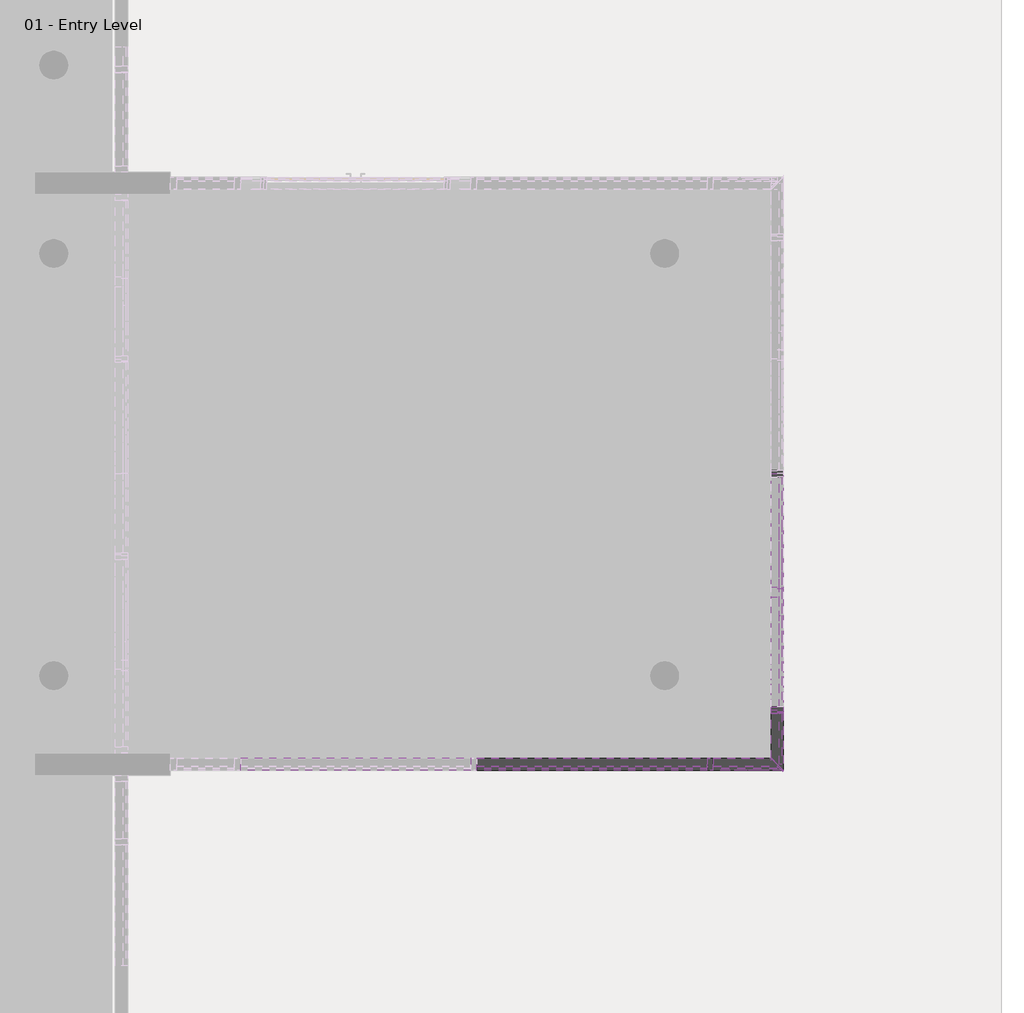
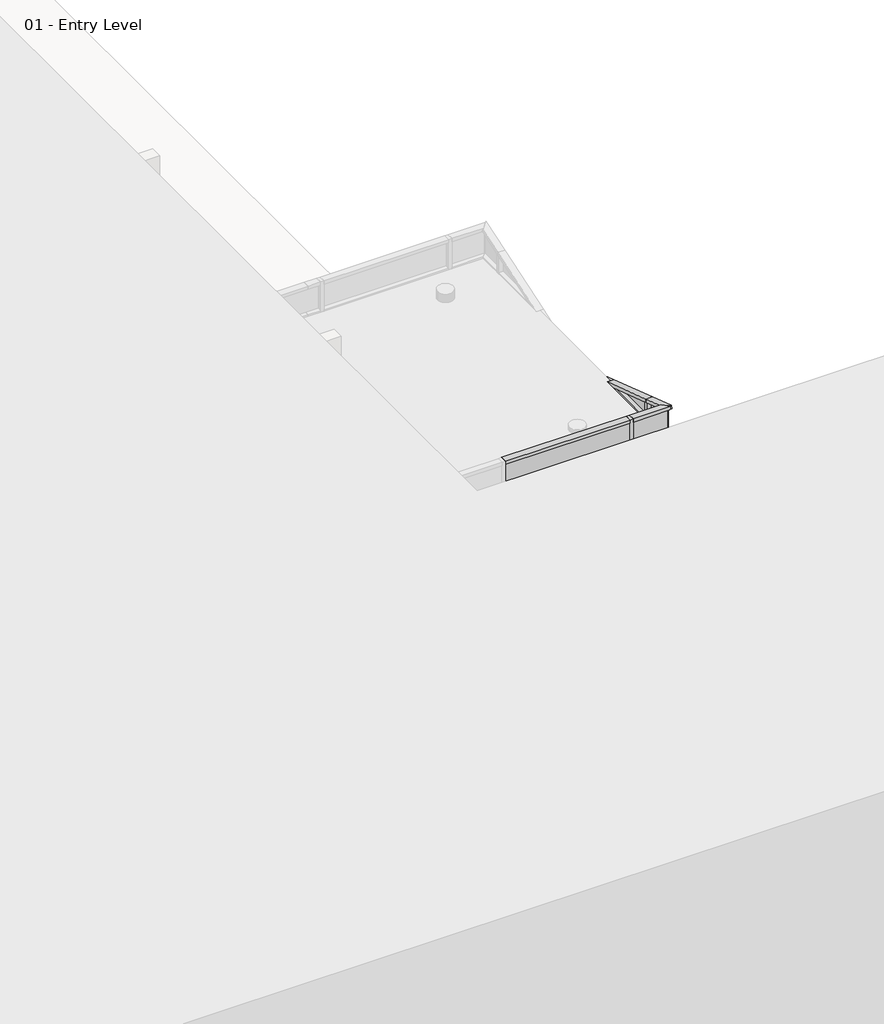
# One storey, part 14 of 34: 79 members, 48 plates.
"""IFC4 building model written with IfcOpenShell, lengths in millimetres."""

from ifc_helpers import new_model, si_unit, origin, place, context, project, spatial, transform, mapped, element, save
from components import member_6e77e263, member_b2bde9e6, member_89bfb2f9, member_7bb0cd3e, member_fce4fd76, member_659f2ef3, member_4067c595, member_9ea90918, member_7a68eee0, member_f22891ba, member_f7040936, member_db3c5f50, member_d798ba6b, system_panel_glazed_1068a10c, system_panel_glazed_a178916c, system_panel_glazed_dff65941, system_panel_glazed_09644247, system_panel_glazed_ee7bb25c, system_panel_glazed_b5016a42, system_panel_glazed_300f1d59, system_panel_glazed_afefc162, system_panel_glazed_c252a688

model = new_model("IFC4")

# Units and contexts
model_context = context("Model", 3, world=origin())
ifc_project = project(units=[si_unit("LENGTHUNIT", "METRE", prefix="MILLI")], contexts=[model_context])

# Site, building, storey
site = spatial("IfcSite", under=ifc_project)
building = spatial("IfcBuilding", under=site)
storey = spatial("IfcBuildingStorey", under=building, Name="01 - Entry Level", Elevation=0.0)

# Members
placement = place(None, origin())
member_shape = member_6e77e263(model_context)
element("IfcMember", 1, ObjectType="Rectangular Mullion : 2.5\" x 5\" rectangular", at=placement, inside=storey, context=model_context, shape_type="MappedRepresentation", body=[
    mapped(member_shape, transform((23947.0115197, 19548.4, 0.0), x_axis=(0.0, 1.0, 0.0), y_axis=(1.0, 0.0, 0.0), z_axis=(0.0, 0.0, -1.0))),
])
element("IfcMember", 2, ObjectType="Rectangular Mullion : 2.5\" x 5\" rectangular", at=placement, inside=storey, context=model_context, shape_type="MappedRepresentation", body=[
    mapped(member_shape, transform((23256.3615197, 16551.2, 0.0), x_axis=(1.0, 0.0, 0.0), y_axis=(0.0, -1.0, 0.0), z_axis=(0.0, 0.0, -1.0))),
])
element("IfcMember", 3, ObjectType="Rectangular Mullion : 2.5\" x 5\" rectangular", at=placement, inside=storey, context=model_context, shape_type="MappedRepresentation", body=[
    mapped(member_shape, transform((23947.0115197, 17110.0, 0.0), x_axis=(0.0, 1.0, 0.0), y_axis=(1.0, 0.0, 0.0), z_axis=(0.0, 0.0, -1.0))),
])
element("IfcMember", 4, ObjectType="Rectangular Mullion : 2.5\" x 5\" rectangular", at=placement, inside=storey, context=model_context, shape_type="MappedRepresentation", body=[
    mapped(member_shape, transform((23947.0115197, 19548.4, 609.6), x_axis=(0.0, 1.0, 0.0), y_axis=(1.0, 0.0, 0.0), z_axis=(0.0, 0.0, -1.0))),
])
element("IfcMember", 5, ObjectType="Rectangular Mullion : 2.5\" x 5\" rectangular", at=placement, inside=storey, context=model_context, shape_type="MappedRepresentation", body=[
    mapped(member_shape, transform((23947.0115197, 19548.4, 1219.2), x_axis=(0.0, 1.0, 0.0), y_axis=(1.0, 0.0, 0.0), z_axis=(0.0, 0.0, -1.0))),
])
element("IfcMember", 6, ObjectType="Rectangular Mullion : 2.5\" x 5\" rectangular", at=placement, inside=storey, context=model_context, shape_type="MappedRepresentation", body=[
    mapped(member_shape, transform((23947.0115197, 19548.4, 1828.8), x_axis=(0.0, 1.0, 0.0), y_axis=(1.0, 0.0, 0.0), z_axis=(0.0, 0.0, -1.0))),
])
element("IfcMember", 7, ObjectType="Rectangular Mullion : 2.5\" x 5\" rectangular", at=placement, inside=storey, context=model_context, shape_type="MappedRepresentation", body=[
    mapped(member_shape, transform((23947.0115197, 19548.4, 2438.4), x_axis=(0.0, 1.0, 0.0), y_axis=(1.0, 0.0, 0.0), z_axis=(0.0, 0.0, -1.0))),
])
element("IfcMember", 8, ObjectType="Rectangular Mullion : 2.5\" x 5\" rectangular", at=placement, inside=storey, context=model_context, shape_type="MappedRepresentation", body=[
    mapped(member_shape, transform((23947.0115197, 19548.4, 3048.0), x_axis=(0.0, 1.0, 0.0), y_axis=(1.0, 0.0, 0.0), z_axis=(0.0, 0.0, -1.0))),
])
element("IfcMember", 9, ObjectType="Rectangular Mullion : 2.5\" x 5\" rectangular", at=placement, inside=storey, context=model_context, shape_type="MappedRepresentation", body=[
    mapped(member_shape, transform((23256.3615197, 16551.2, 609.6), x_axis=(1.0, 0.0, 0.0), y_axis=(0.0, -1.0, 0.0), z_axis=(0.0, 0.0, -1.0))),
])
element("IfcMember", 10, ObjectType="Rectangular Mullion : 2.5\" x 5\" rectangular", at=placement, inside=storey, context=model_context, shape_type="MappedRepresentation", body=[
    mapped(member_shape, transform((23256.3615197, 16551.2, 1219.2), x_axis=(1.0, 0.0, 0.0), y_axis=(0.0, -1.0, 0.0), z_axis=(0.0, 0.0, -1.0))),
])
element("IfcMember", 11, ObjectType="Rectangular Mullion : 2.5\" x 5\" rectangular", at=placement, inside=storey, context=model_context, shape_type="MappedRepresentation", body=[
    mapped(member_shape, transform((23256.3615197, 16551.2, 1828.8), x_axis=(1.0, 0.0, 0.0), y_axis=(0.0, -1.0, 0.0), z_axis=(0.0, 0.0, -1.0))),
])
element("IfcMember", 12, ObjectType="Rectangular Mullion : 2.5\" x 5\" rectangular", at=placement, inside=storey, context=model_context, shape_type="MappedRepresentation", body=[
    mapped(member_shape, transform((23256.3615197, 16551.2, 2438.4), x_axis=(1.0, 0.0, 0.0), y_axis=(0.0, -1.0, 0.0), z_axis=(0.0, 0.0, -1.0))),
])
element("IfcMember", 13, ObjectType="Rectangular Mullion : 2.5\" x 5\" rectangular", at=placement, inside=storey, context=model_context, shape_type="MappedRepresentation", body=[
    mapped(member_shape, transform((23256.3615197, 16551.2, 3048.0), x_axis=(1.0, 0.0, 0.0), y_axis=(0.0, -1.0, 0.0), z_axis=(0.0, 0.0, -1.0))),
])
element("IfcMember", 14, ObjectType="Rectangular Mullion : 2.5\" x 5\" rectangular", at=placement, inside=storey, context=model_context, shape_type="MappedRepresentation", body=[
    mapped(member_shape, transform((23947.0115197, 19548.4, 3657.6), x_axis=(0.0, 1.0, 0.0), y_axis=(1.0, 0.0, 0.0), z_axis=(0.0, 0.0, -1.0))),
])
element("IfcMember", 15, ObjectType="Rectangular Mullion : 2.5\" x 5\" rectangular", at=placement, inside=storey, context=model_context, shape_type="MappedRepresentation", body=[
    mapped(member_shape, transform((23947.0115197, 19548.4, 4267.2), x_axis=(0.0, 1.0, 0.0), y_axis=(1.0, 0.0, 0.0), z_axis=(0.0, 0.0, -1.0))),
])
element("IfcMember", 16, ObjectType="Rectangular Mullion : 2.5\" x 5\" rectangular", at=placement, inside=storey, context=model_context, shape_type="MappedRepresentation", body=[
    mapped(member_shape, transform((23947.0115197, 17110.0, 609.6), x_axis=(0.0, 1.0, 0.0), y_axis=(1.0, 0.0, 0.0), z_axis=(0.0, 0.0, -1.0))),
])
element("IfcMember", 17, ObjectType="Rectangular Mullion : 2.5\" x 5\" rectangular", at=placement, inside=storey, context=model_context, shape_type="MappedRepresentation", body=[
    mapped(member_shape, transform((23947.0115197, 17110.0, 1219.2), x_axis=(0.0, 1.0, 0.0), y_axis=(1.0, 0.0, 0.0), z_axis=(0.0, 0.0, -1.0))),
])
element("IfcMember", 18, ObjectType="Rectangular Mullion : 2.5\" x 5\" rectangular", at=placement, inside=storey, context=model_context, shape_type="MappedRepresentation", body=[
    mapped(member_shape, transform((23947.0115197, 17110.0, 1828.8), x_axis=(0.0, 1.0, 0.0), y_axis=(1.0, 0.0, 0.0), z_axis=(0.0, 0.0, -1.0))),
])
element("IfcMember", 19, ObjectType="Rectangular Mullion : 2.5\" x 5\" rectangular", at=placement, inside=storey, context=model_context, shape_type="MappedRepresentation", body=[
    mapped(member_shape, transform((23947.0115197, 17110.0, 2438.4), x_axis=(0.0, 1.0, 0.0), y_axis=(1.0, 0.0, 0.0), z_axis=(0.0, 0.0, -1.0))),
])
element("IfcMember", 20, ObjectType="Rectangular Mullion : 2.5\" x 5\" rectangular", at=placement, inside=storey, context=model_context, shape_type="MappedRepresentation", body=[
    mapped(member_shape, transform((23947.0115197, 17110.0, 3048.0), x_axis=(0.0, 1.0, 0.0), y_axis=(1.0, 0.0, 0.0), z_axis=(0.0, 0.0, -1.0))),
])
element("IfcMember", 21, ObjectType="Rectangular Mullion : 2.5\" x 5\" rectangular", at=placement, inside=storey, context=model_context, shape_type="MappedRepresentation", body=[
    mapped(member_shape, transform((23947.0115197, 17110.0, 3657.6), x_axis=(0.0, 1.0, 0.0), y_axis=(1.0, 0.0, 0.0), z_axis=(0.0, 0.0, -1.0))),
])
element("IfcMember", 22, ObjectType="Rectangular Mullion : 2.5\" x 5\" rectangular", at=placement, inside=storey, context=model_context, shape_type="MappedRepresentation", body=[
    mapped(member_shape, transform((23947.0115197, 17110.0, 4267.2), x_axis=(0.0, 1.0, 0.0), y_axis=(1.0, 0.0, 0.0), z_axis=(0.0, 0.0, -1.0))),
])
element("IfcMember", 23, ObjectType="Rectangular Mullion : 2.5\" x 5\" rectangular", at=placement, inside=storey, context=model_context, shape_type="MappedRepresentation", body=[
    mapped(member_shape, transform((23947.0115197, 17110.0, 4876.8), x_axis=(0.0, 1.0, 0.0), y_axis=(1.0, 0.0, 0.0), z_axis=(0.0, 0.0, -1.0))),
])
element("IfcMember", 24, ObjectType="Rectangular Mullion : 2.5\" x 5\" rectangular", at=placement, inside=storey, context=model_context, shape_type="MappedRepresentation", body=[
    mapped(member_shape, transform((23947.0115197, 17110.0, 5486.4), x_axis=(0.0, 1.0, 0.0), y_axis=(1.0, 0.0, 0.0), z_axis=(0.0, 0.0, -1.0))),
])
element("IfcMember", 25, ObjectType="Rectangular Mullion : 2.5\" x 5\" rectangular", at=placement, inside=storey, context=model_context, shape_type="MappedRepresentation", body=[
    mapped(member_shape, transform((23947.0115197, 17110.0, 6096.0), x_axis=(0.0, 1.0, 0.0), y_axis=(1.0, 0.0, 0.0), z_axis=(0.0, 0.0, -1.0))),
])
element("IfcMember", 26, ObjectType="Rectangular Mullion : 2.5\" x 5\" rectangular", at=placement, inside=storey, context=model_context, shape_type="MappedRepresentation", body=[
    mapped(member_shape, transform((23256.3615197, 16551.2, 3657.6), x_axis=(1.0, 0.0, 0.0), y_axis=(0.0, -1.0, 0.0), z_axis=(0.0, 0.0, -1.0))),
])
element("IfcMember", 27, ObjectType="Rectangular Mullion : 2.5\" x 5\" rectangular", at=placement, inside=storey, context=model_context, shape_type="MappedRepresentation", body=[
    mapped(member_shape, transform((23256.3615197, 16551.2, 4267.2), x_axis=(1.0, 0.0, 0.0), y_axis=(0.0, -1.0, 0.0), z_axis=(0.0, 0.0, -1.0))),
])
element("IfcMember", 28, ObjectType="Rectangular Mullion : 2.5\" x 5\" rectangular", at=placement, inside=storey, context=model_context, shape_type="MappedRepresentation", body=[
    mapped(member_shape, transform((23256.3615197, 16551.2, 4876.8), x_axis=(1.0, 0.0, 0.0), y_axis=(0.0, -1.0, 0.0), z_axis=(0.0, 0.0, -1.0))),
])
element("IfcMember", 29, ObjectType="Rectangular Mullion : 2.5\" x 5\" rectangular", at=placement, inside=storey, context=model_context, shape_type="MappedRepresentation", body=[
    mapped(member_shape, transform((23256.3615197, 16551.2, 5486.4), x_axis=(1.0, 0.0, 0.0), y_axis=(0.0, -1.0, 0.0), z_axis=(0.0, 0.0, -1.0))),
])
element("IfcMember", 30, ObjectType="Rectangular Mullion : 2.5\" x 5\" rectangular", at=placement, inside=storey, context=model_context, shape_type="MappedRepresentation", body=[
    mapped(member_shape, transform((23256.3615197, 16551.2, 6096.0), x_axis=(1.0, 0.0, 0.0), y_axis=(0.0, -1.0, 0.0), z_axis=(0.0, 0.0, -1.0))),
])
member_2_shape = member_b2bde9e6(model_context)
element("IfcMember", 31, ObjectType="Rectangular Mullion : 2.5\" x 5\" rectangular", at=placement, inside=storey, context=model_context, shape_type="MappedRepresentation", body=[
    mapped(member_2_shape, transform((23947.0115197, 19580.15, 0.0), x_axis=(0.0, 0.0, -1.0), y_axis=(1.0, 0.0, 0.0), z_axis=(0.0, -1.0, 0.0))),
])
element("IfcMember", 32, ObjectType="Rectangular Mullion : 2.5\" x 5\" rectangular", at=placement, inside=storey, context=model_context, shape_type="MappedRepresentation", body=[
    mapped(member_2_shape, transform((23947.0115197, 17141.75, 0.0), x_axis=(0.0, 0.0, -1.0), y_axis=(1.0, 0.0, 0.0), z_axis=(0.0, -1.0, 0.0))),
])
member_3_shape = member_89bfb2f9(model_context)
element("IfcMember", 33, ObjectType="Rectangular Mullion : 2.5\" x 5\" rectangular", at=placement, inside=storey, context=model_context, shape_type="MappedRepresentation", body=[
    mapped(member_3_shape, transform((23224.6115197, 16551.2, 609.6), x_axis=(0.0, 0.0, 1.0), y_axis=(0.0, -1.0, 0.0), z_axis=(1.0, 0.0, 0.0))),
])
element("IfcMember", 34, ObjectType="Rectangular Mullion : 2.5\" x 5\" rectangular", at=placement, inside=storey, context=model_context, shape_type="MappedRepresentation", body=[
    mapped(member_3_shape, transform((23224.6115197, 16551.2, 1219.2), x_axis=(0.0, 0.0, 1.0), y_axis=(0.0, -1.0, 0.0), z_axis=(1.0, 0.0, 0.0))),
])
element("IfcMember", 35, ObjectType="Rectangular Mullion : 2.5\" x 5\" rectangular", at=placement, inside=storey, context=model_context, shape_type="MappedRepresentation", body=[
    mapped(member_3_shape, transform((23224.6115197, 16551.2, 1828.8), x_axis=(0.0, 0.0, 1.0), y_axis=(0.0, -1.0, 0.0), z_axis=(1.0, 0.0, 0.0))),
])
element("IfcMember", 36, ObjectType="Rectangular Mullion : 2.5\" x 5\" rectangular", at=placement, inside=storey, context=model_context, shape_type="MappedRepresentation", body=[
    mapped(member_3_shape, transform((23224.6115197, 16551.2, 2438.4), x_axis=(0.0, 0.0, 1.0), y_axis=(0.0, -1.0, 0.0), z_axis=(1.0, 0.0, 0.0))),
])
element("IfcMember", 37, ObjectType="Rectangular Mullion : 2.5\" x 5\" rectangular", at=placement, inside=storey, context=model_context, shape_type="MappedRepresentation", body=[
    mapped(member_3_shape, transform((23224.6115197, 16551.2, 3048.0), x_axis=(0.0, 0.0, 1.0), y_axis=(0.0, -1.0, 0.0), z_axis=(1.0, 0.0, 0.0))),
])
element("IfcMember", 38, ObjectType="Rectangular Mullion : 2.5\" x 5\" rectangular", at=placement, inside=storey, context=model_context, shape_type="MappedRepresentation", body=[
    mapped(member_3_shape, transform((23224.6115197, 16551.2, 3657.6), x_axis=(0.0, 0.0, 1.0), y_axis=(0.0, -1.0, 0.0), z_axis=(1.0, 0.0, 0.0))),
])
element("IfcMember", 39, ObjectType="Rectangular Mullion : 2.5\" x 5\" rectangular", at=placement, inside=storey, context=model_context, shape_type="MappedRepresentation", body=[
    mapped(member_3_shape, transform((23224.6115197, 16551.2, 4267.2), x_axis=(0.0, 0.0, 1.0), y_axis=(0.0, -1.0, 0.0), z_axis=(1.0, 0.0, 0.0))),
])
element("IfcMember", 40, ObjectType="Rectangular Mullion : 2.5\" x 5\" rectangular", at=placement, inside=storey, context=model_context, shape_type="MappedRepresentation", body=[
    mapped(member_3_shape, transform((20786.2115197, 16551.2, 4876.8), x_axis=(0.0, 0.0, 1.0), y_axis=(0.0, -1.0, 0.0), z_axis=(1.0, 0.0, 0.0))),
])
element("IfcMember", 41, ObjectType="Rectangular Mullion : 2.5\" x 5\" rectangular", at=placement, inside=storey, context=model_context, shape_type="MappedRepresentation", body=[
    mapped(member_3_shape, transform((23224.6115197, 16551.2, 4876.8), x_axis=(0.0, 0.0, 1.0), y_axis=(0.0, -1.0, 0.0), z_axis=(1.0, 0.0, 0.0))),
])
element("IfcMember", 42, ObjectType="Rectangular Mullion : 2.5\" x 5\" rectangular", at=placement, inside=storey, context=model_context, shape_type="MappedRepresentation", body=[
    mapped(member_3_shape, transform((20786.2115197, 16551.2, 5486.4), x_axis=(0.0, 0.0, 1.0), y_axis=(0.0, -1.0, 0.0), z_axis=(1.0, 0.0, 0.0))),
])
element("IfcMember", 43, ObjectType="Rectangular Mullion : 2.5\" x 5\" rectangular", at=placement, inside=storey, context=model_context, shape_type="MappedRepresentation", body=[
    mapped(member_3_shape, transform((23224.6115197, 16551.2, 5486.4), x_axis=(0.0, 0.0, 1.0), y_axis=(0.0, -1.0, 0.0), z_axis=(1.0, 0.0, 0.0))),
])
element("IfcMember", 44, ObjectType="Rectangular Mullion : 2.5\" x 5\" rectangular", at=placement, inside=storey, context=model_context, shape_type="MappedRepresentation", body=[
    mapped(member_3_shape, transform((20786.2115197, 16551.2, 6096.0), x_axis=(0.0, 0.0, 1.0), y_axis=(0.0, -1.0, 0.0), z_axis=(1.0, 0.0, 0.0))),
])
element("IfcMember", 45, ObjectType="Rectangular Mullion : 2.5\" x 5\" rectangular", at=placement, inside=storey, context=model_context, shape_type="MappedRepresentation", body=[
    mapped(member_3_shape, transform((23224.6115197, 16551.2, 6096.0), x_axis=(0.0, 0.0, 1.0), y_axis=(0.0, -1.0, 0.0), z_axis=(1.0, 0.0, 0.0))),
])
element("IfcMember", 46, ObjectType="Rectangular Mullion : 2.5\" x 5\" rectangular", at=placement, inside=storey, context=model_context, shape_type="MappedRepresentation", body=[
    mapped(member_3_shape, transform((20786.2115197, 16551.2, 6705.6), x_axis=(0.0, 0.0, 1.0), y_axis=(0.0, -1.0, 0.0), z_axis=(1.0, 0.0, 0.0))),
])
element("IfcMember", 47, ObjectType="Rectangular Mullion : 2.5\" x 5\" rectangular", at=placement, inside=storey, context=model_context, shape_type="MappedRepresentation", body=[
    mapped(member_3_shape, transform((23224.6115197, 16551.2, 6705.6), x_axis=(0.0, 0.0, 1.0), y_axis=(0.0, -1.0, 0.0), z_axis=(1.0, 0.0, 0.0))),
])
member_4_shape = member_7bb0cd3e(model_context)
element("IfcMember", 48, ObjectType="Rectangular Mullion : 2.5\" x 5\" rectangular", at=placement, inside=storey, context=model_context, shape_type="MappedRepresentation", body=[
    mapped(member_4_shape, transform((23947.0115197, 19548.4, 6316.1333333), x_axis=(0.0, 0.316227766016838, 0.9486832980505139), y_axis=(1.0, 0.0, 0.0), z_axis=(0.0, 0.9486832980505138, -0.31622776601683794))),
])
member_5_shape = member_fce4fd76(model_context)
element("IfcMember", 49, ObjectType="Rectangular Mullion : 2.5\" x 5\" rectangular", at=placement, inside=storey, context=model_context, shape_type="MappedRepresentation", body=[
    mapped(member_5_shape, transform((23947.0115197, 18380.0, 6705.6), x_axis=(0.0, 0.31622776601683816, 0.9486832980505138), y_axis=(1.0, 0.0, 0.0), z_axis=(0.0, 0.9486832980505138, -0.31622776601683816))),
])
member_6_shape = member_659f2ef3(model_context)
element("IfcMember", 50, ObjectType="Rectangular Mullion : 2.5\" x 5\" rectangular", at=placement, inside=storey, context=model_context, shape_type="MappedRepresentation", body=[
    mapped(member_6_shape, transform((23947.0115197, 18380.0, 6705.6), x_axis=(0.0, 0.0, 1.0), y_axis=(1.0, 0.0, 0.0), z_axis=(0.0, 1.0, 0.0))),
])
member_7_shape = member_4067c595(model_context)
element("IfcMember", 51, ObjectType="Rectangular Mullion : 2.5\" x 5\" rectangular", at=placement, inside=storey, context=model_context, shape_type="MappedRepresentation", body=[
    mapped(member_7_shape, transform((23947.0115197, 17110.0, 6705.6), x_axis=(0.0, 1.0, 0.0), y_axis=(1.0, 0.0, 0.0), z_axis=(0.0, 0.0, -1.0))),
])
element("IfcMember", 52, ObjectType="Rectangular Mullion : 2.5\" x 5\" rectangular", at=placement, inside=storey, context=model_context, shape_type="MappedRepresentation", body=[
    mapped(member_2_shape, transform((23224.6115197, 16551.2, 7315.2), x_axis=(0.0, 0.0, 1.0), y_axis=(0.0, -1.0, 0.0), z_axis=(1.0, 0.0, 0.0))),
])
element("IfcMember", 53, ObjectType="Rectangular Mullion : 2.5\" x 5\" rectangular", at=placement, inside=storey, context=model_context, shape_type="MappedRepresentation", body=[
    mapped(member_shape, transform((23256.3615197, 16551.2, 6705.6), x_axis=(1.0, 0.0, 0.0), y_axis=(0.0, -1.0, 0.0), z_axis=(0.0, 0.0, -1.0))),
])
member_8_shape = member_9ea90918(model_context)
element("IfcMember", 54, ObjectType="Rectangular Mullion : 2.5\" x 5\" rectangular", at=placement, inside=storey, context=model_context, shape_type="MappedRepresentation", body=[
    mapped(member_8_shape, transform((23947.0115197, 16551.2, 0.0), x_axis=(0.0, 0.0, -1.0), y_axis=(1.0, 0.0, 0.0), z_axis=(0.0, -1.0, 0.0))),
])
member_9_shape = member_7a68eee0(model_context)
element("IfcMember", 55, ObjectType="Rectangular Mullion : 2.5\" x 5\" rectangular", at=placement, inside=storey, context=model_context, shape_type="MappedRepresentation", body=[
    mapped(member_9_shape, transform((23288.1115197, 16551.2, 0.0), x_axis=(0.0, 0.0, -1.0), y_axis=(0.0, -1.0, 0.0), z_axis=(-1.0, 0.0, 0.0))),
])
member_10_shape = member_f22891ba(model_context)
element("IfcMember", 56, ObjectType="Rectangular Mullion : 2.5\" x 5\" rectangular", at=placement, inside=storey, context=model_context, shape_type="MappedRepresentation", body=[
    mapped(member_10_shape, transform((23947.0115197, 17078.25, 609.6), x_axis=(0.0, 0.0, 1.0), y_axis=(1.0, 0.0, 0.0), z_axis=(0.0, 1.0, 0.0))),
])
element("IfcMember", 57, ObjectType="Rectangular Mullion : 2.5\" x 5\" rectangular", at=placement, inside=storey, context=model_context, shape_type="MappedRepresentation", body=[
    mapped(member_10_shape, transform((23947.0115197, 17078.25, 1219.2), x_axis=(0.0, 0.0, 1.0), y_axis=(1.0, 0.0, 0.0), z_axis=(0.0, 1.0, 0.0))),
])
element("IfcMember", 58, ObjectType="Rectangular Mullion : 2.5\" x 5\" rectangular", at=placement, inside=storey, context=model_context, shape_type="MappedRepresentation", body=[
    mapped(member_10_shape, transform((23947.0115197, 17078.25, 1828.8), x_axis=(0.0, 0.0, 1.0), y_axis=(1.0, 0.0, 0.0), z_axis=(0.0, 1.0, 0.0))),
])
element("IfcMember", 59, ObjectType="Rectangular Mullion : 2.5\" x 5\" rectangular", at=placement, inside=storey, context=model_context, shape_type="MappedRepresentation", body=[
    mapped(member_10_shape, transform((23947.0115197, 17078.25, 2438.4), x_axis=(0.0, 0.0, 1.0), y_axis=(1.0, 0.0, 0.0), z_axis=(0.0, 1.0, 0.0))),
])
element("IfcMember", 60, ObjectType="Rectangular Mullion : 2.5\" x 5\" rectangular", at=placement, inside=storey, context=model_context, shape_type="MappedRepresentation", body=[
    mapped(member_10_shape, transform((23947.0115197, 17078.25, 3048.0), x_axis=(0.0, 0.0, 1.0), y_axis=(1.0, 0.0, 0.0), z_axis=(0.0, 1.0, 0.0))),
])
element("IfcMember", 61, ObjectType="Rectangular Mullion : 2.5\" x 5\" rectangular", at=placement, inside=storey, context=model_context, shape_type="MappedRepresentation", body=[
    mapped(member_10_shape, transform((23947.0115197, 17078.25, 3657.6), x_axis=(0.0, 0.0, 1.0), y_axis=(1.0, 0.0, 0.0), z_axis=(0.0, 1.0, 0.0))),
])
element("IfcMember", 62, ObjectType="Rectangular Mullion : 2.5\" x 5\" rectangular", at=placement, inside=storey, context=model_context, shape_type="MappedRepresentation", body=[
    mapped(member_10_shape, transform((23947.0115197, 17078.25, 4267.2), x_axis=(0.0, 0.0, 1.0), y_axis=(1.0, 0.0, 0.0), z_axis=(0.0, 1.0, 0.0))),
])
element("IfcMember", 63, ObjectType="Rectangular Mullion : 2.5\" x 5\" rectangular", at=placement, inside=storey, context=model_context, shape_type="MappedRepresentation", body=[
    mapped(member_10_shape, transform((23947.0115197, 17078.25, 4876.8), x_axis=(0.0, 0.0, 1.0), y_axis=(1.0, 0.0, 0.0), z_axis=(0.0, 1.0, 0.0))),
])
element("IfcMember", 64, ObjectType="Rectangular Mullion : 2.5\" x 5\" rectangular", at=placement, inside=storey, context=model_context, shape_type="MappedRepresentation", body=[
    mapped(member_10_shape, transform((23947.0115197, 17078.25, 5486.4), x_axis=(0.0, 0.0, 1.0), y_axis=(1.0, 0.0, 0.0), z_axis=(0.0, 1.0, 0.0))),
])
element("IfcMember", 65, ObjectType="Rectangular Mullion : 2.5\" x 5\" rectangular", at=placement, inside=storey, context=model_context, shape_type="MappedRepresentation", body=[
    mapped(member_10_shape, transform((23947.0115197, 17078.25, 6096.0), x_axis=(0.0, 0.0, 1.0), y_axis=(1.0, 0.0, 0.0), z_axis=(0.0, 1.0, 0.0))),
])
element("IfcMember", 66, ObjectType="Rectangular Mullion : 2.5\" x 5\" rectangular", at=placement, inside=storey, context=model_context, shape_type="MappedRepresentation", body=[
    mapped(member_10_shape, transform((23947.0115197, 17078.25, 6705.6), x_axis=(0.0, 0.0, 1.0), y_axis=(1.0, 0.0, 0.0), z_axis=(0.0, 1.0, 0.0))),
])
member_11_shape = member_f7040936(model_context)
element("IfcMember", 67, ObjectType="Rectangular Mullion : 2.5\" x 5\" rectangular", at=placement, inside=storey, context=model_context, shape_type="MappedRepresentation", body=[
    mapped(member_11_shape, transform((23947.0115197, 16551.2, 609.6), x_axis=(0.0, 0.0, 1.0), y_axis=(0.0, -1.0, 0.0), z_axis=(1.0, 0.0, 0.0))),
])
element("IfcMember", 68, ObjectType="Rectangular Mullion : 2.5\" x 5\" rectangular", at=placement, inside=storey, context=model_context, shape_type="MappedRepresentation", body=[
    mapped(member_11_shape, transform((23947.0115197, 16551.2, 1219.2), x_axis=(0.0, 0.0, 1.0), y_axis=(0.0, -1.0, 0.0), z_axis=(1.0, 0.0, 0.0))),
])
element("IfcMember", 69, ObjectType="Rectangular Mullion : 2.5\" x 5\" rectangular", at=placement, inside=storey, context=model_context, shape_type="MappedRepresentation", body=[
    mapped(member_11_shape, transform((23947.0115197, 16551.2, 1828.8), x_axis=(0.0, 0.0, 1.0), y_axis=(0.0, -1.0, 0.0), z_axis=(1.0, 0.0, 0.0))),
])
element("IfcMember", 70, ObjectType="Rectangular Mullion : 2.5\" x 5\" rectangular", at=placement, inside=storey, context=model_context, shape_type="MappedRepresentation", body=[
    mapped(member_11_shape, transform((23947.0115197, 16551.2, 2438.4), x_axis=(0.0, 0.0, 1.0), y_axis=(0.0, -1.0, 0.0), z_axis=(1.0, 0.0, 0.0))),
])
element("IfcMember", 71, ObjectType="Rectangular Mullion : 2.5\" x 5\" rectangular", at=placement, inside=storey, context=model_context, shape_type="MappedRepresentation", body=[
    mapped(member_11_shape, transform((23947.0115197, 16551.2, 3048.0), x_axis=(0.0, 0.0, 1.0), y_axis=(0.0, -1.0, 0.0), z_axis=(1.0, 0.0, 0.0))),
])
element("IfcMember", 72, ObjectType="Rectangular Mullion : 2.5\" x 5\" rectangular", at=placement, inside=storey, context=model_context, shape_type="MappedRepresentation", body=[
    mapped(member_11_shape, transform((23947.0115197, 16551.2, 3657.6), x_axis=(0.0, 0.0, 1.0), y_axis=(0.0, -1.0, 0.0), z_axis=(1.0, 0.0, 0.0))),
])
element("IfcMember", 73, ObjectType="Rectangular Mullion : 2.5\" x 5\" rectangular", at=placement, inside=storey, context=model_context, shape_type="MappedRepresentation", body=[
    mapped(member_11_shape, transform((23947.0115197, 16551.2, 4267.2), x_axis=(0.0, 0.0, 1.0), y_axis=(0.0, -1.0, 0.0), z_axis=(1.0, 0.0, 0.0))),
])
element("IfcMember", 74, ObjectType="Rectangular Mullion : 2.5\" x 5\" rectangular", at=placement, inside=storey, context=model_context, shape_type="MappedRepresentation", body=[
    mapped(member_11_shape, transform((23947.0115197, 16551.2, 4876.8), x_axis=(0.0, 0.0, 1.0), y_axis=(0.0, -1.0, 0.0), z_axis=(1.0, 0.0, 0.0))),
])
element("IfcMember", 75, ObjectType="Rectangular Mullion : 2.5\" x 5\" rectangular", at=placement, inside=storey, context=model_context, shape_type="MappedRepresentation", body=[
    mapped(member_11_shape, transform((23947.0115197, 16551.2, 5486.4), x_axis=(0.0, 0.0, 1.0), y_axis=(0.0, -1.0, 0.0), z_axis=(1.0, 0.0, 0.0))),
])
element("IfcMember", 76, ObjectType="Rectangular Mullion : 2.5\" x 5\" rectangular", at=placement, inside=storey, context=model_context, shape_type="MappedRepresentation", body=[
    mapped(member_11_shape, transform((23947.0115197, 16551.2, 6096.0), x_axis=(0.0, 0.0, 1.0), y_axis=(0.0, -1.0, 0.0), z_axis=(1.0, 0.0, 0.0))),
])
element("IfcMember", 77, ObjectType="Rectangular Mullion : 2.5\" x 5\" rectangular", at=placement, inside=storey, context=model_context, shape_type="MappedRepresentation", body=[
    mapped(member_11_shape, transform((23947.0115197, 16551.2, 6705.6), x_axis=(0.0, 0.0, 1.0), y_axis=(0.0, -1.0, 0.0), z_axis=(1.0, 0.0, 0.0))),
])
member_12_shape = member_db3c5f50(model_context)
element("IfcMember", 78, ObjectType="Rectangular Mullion : 2.5\" x 5\" rectangular", at=placement, inside=storey, context=model_context, shape_type="MappedRepresentation", body=[
    mapped(member_12_shape, transform((23947.0115197, 17110.0, 7128.9333333), x_axis=(0.0, 0.31622776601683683, 0.9486832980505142), y_axis=(1.0, 0.0, 0.0), z_axis=(0.0, 0.9486832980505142, -0.31622776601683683))),
])
member_13_shape = member_d798ba6b(model_context)
element("IfcMember", 79, ObjectType="Rectangular Mullion : 2.5\" x 5\" rectangular", at=placement, inside=storey, context=model_context, shape_type="MappedRepresentation", body=[
    mapped(member_13_shape, transform((23947.0115197, 16551.2, 7315.2), x_axis=(0.0, 0.0, 1.0), y_axis=(0.0, -1.0, 0.0), z_axis=(1.0, 0.0, 0.0))),
])

# Plates
system_panel_glazed_shape = system_panel_glazed_1068a10c(model_context)
element("IfcPlate", 80, ObjectType="System Panel : Glazed", at=placement, inside=storey, context=model_context, shape_type="MappedRepresentation", body=[
    mapped(system_panel_glazed_shape, transform((22037.1615197, 16551.2, 63.5), x_axis=(1.0, 0.0, 0.0), y_axis=(0.0, 1.0, 0.0), z_axis=(0.0, 0.0, 1.0))),
])
element("IfcPlate", 81, ObjectType="System Panel : Glazed", at=placement, inside=storey, context=model_context, shape_type="MappedRepresentation", body=[
    mapped(system_panel_glazed_shape, transform((23947.0115197, 18329.2, 63.5), x_axis=(0.0, 1.0, 0.0), y_axis=(-1.0, 0.0, 0.0), z_axis=(0.0, 0.0, 1.0))),
])
element("IfcPlate", 82, ObjectType="System Panel : Glazed", at=placement, inside=storey, context=model_context, shape_type="MappedRepresentation", body=[
    mapped(system_panel_glazed_shape, transform((22037.1615197, 16551.2, 6737.35), x_axis=(1.0, 0.0, 0.0), y_axis=(0.0, 1.0, 0.0), z_axis=(0.0, 0.0, 1.0))),
])
system_panel_glazed_2_shape = system_panel_glazed_a178916c(model_context)
element("IfcPlate", 83, ObjectType="System Panel : Glazed", at=placement, inside=storey, context=model_context, shape_type="MappedRepresentation", body=[
    mapped(system_panel_glazed_2_shape, transform((22037.1615197, 16551.2, 641.35), x_axis=(1.0, 0.0, 0.0), y_axis=(0.0, 1.0, 0.0), z_axis=(0.0, 0.0, 1.0))),
])
element("IfcPlate", 84, ObjectType="System Panel : Glazed", at=placement, inside=storey, context=model_context, shape_type="MappedRepresentation", body=[
    mapped(system_panel_glazed_2_shape, transform((22037.1615197, 16551.2, 1250.95), x_axis=(1.0, 0.0, 0.0), y_axis=(0.0, 1.0, 0.0), z_axis=(0.0, 0.0, 1.0))),
])
element("IfcPlate", 85, ObjectType="System Panel : Glazed", at=placement, inside=storey, context=model_context, shape_type="MappedRepresentation", body=[
    mapped(system_panel_glazed_2_shape, transform((22037.1615197, 16551.2, 1860.55), x_axis=(1.0, 0.0, 0.0), y_axis=(0.0, 1.0, 0.0), z_axis=(0.0, 0.0, 1.0))),
])
element("IfcPlate", 86, ObjectType="System Panel : Glazed", at=placement, inside=storey, context=model_context, shape_type="MappedRepresentation", body=[
    mapped(system_panel_glazed_2_shape, transform((22037.1615197, 16551.2, 2470.15), x_axis=(1.0, 0.0, 0.0), y_axis=(0.0, 1.0, 0.0), z_axis=(0.0, 0.0, 1.0))),
])
element("IfcPlate", 87, ObjectType="System Panel : Glazed", at=placement, inside=storey, context=model_context, shape_type="MappedRepresentation", body=[
    mapped(system_panel_glazed_2_shape, transform((22037.1615197, 16551.2, 3079.75), x_axis=(1.0, 0.0, 0.0), y_axis=(0.0, 1.0, 0.0), z_axis=(0.0, 0.0, 1.0))),
])
element("IfcPlate", 88, ObjectType="System Panel : Glazed", at=placement, inside=storey, context=model_context, shape_type="MappedRepresentation", body=[
    mapped(system_panel_glazed_2_shape, transform((23947.0115197, 18329.2, 641.35), x_axis=(0.0, 1.0, 0.0), y_axis=(-1.0, 0.0, 0.0), z_axis=(0.0, 0.0, 1.0))),
])
element("IfcPlate", 89, ObjectType="System Panel : Glazed", at=placement, inside=storey, context=model_context, shape_type="MappedRepresentation", body=[
    mapped(system_panel_glazed_2_shape, transform((23947.0115197, 18329.2, 1250.95), x_axis=(0.0, 1.0, 0.0), y_axis=(-1.0, 0.0, 0.0), z_axis=(0.0, 0.0, 1.0))),
])
element("IfcPlate", 90, ObjectType="System Panel : Glazed", at=placement, inside=storey, context=model_context, shape_type="MappedRepresentation", body=[
    mapped(system_panel_glazed_2_shape, transform((23947.0115197, 18329.2, 1860.55), x_axis=(0.0, 1.0, 0.0), y_axis=(-1.0, 0.0, 0.0), z_axis=(0.0, 0.0, 1.0))),
])
element("IfcPlate", 91, ObjectType="System Panel : Glazed", at=placement, inside=storey, context=model_context, shape_type="MappedRepresentation", body=[
    mapped(system_panel_glazed_2_shape, transform((23947.0115197, 18329.2, 2470.15), x_axis=(0.0, 1.0, 0.0), y_axis=(-1.0, 0.0, 0.0), z_axis=(0.0, 0.0, 1.0))),
])
element("IfcPlate", 92, ObjectType="System Panel : Glazed", at=placement, inside=storey, context=model_context, shape_type="MappedRepresentation", body=[
    mapped(system_panel_glazed_2_shape, transform((23947.0115197, 18329.2, 3079.75), x_axis=(0.0, 1.0, 0.0), y_axis=(-1.0, 0.0, 0.0), z_axis=(0.0, 0.0, 1.0))),
])
element("IfcPlate", 93, ObjectType="System Panel : Glazed", at=placement, inside=storey, context=model_context, shape_type="MappedRepresentation", body=[
    mapped(system_panel_glazed_2_shape, transform((23947.0115197, 18329.2, 3689.35), x_axis=(0.0, 1.0, 0.0), y_axis=(-1.0, 0.0, 0.0), z_axis=(0.0, 0.0, 1.0))),
])
element("IfcPlate", 94, ObjectType="System Panel : Glazed", at=placement, inside=storey, context=model_context, shape_type="MappedRepresentation", body=[
    mapped(system_panel_glazed_2_shape, transform((23947.0115197, 18329.2, 4298.95), x_axis=(0.0, 1.0, 0.0), y_axis=(-1.0, 0.0, 0.0), z_axis=(0.0, 0.0, 1.0))),
])
element("IfcPlate", 95, ObjectType="System Panel : Glazed", at=placement, inside=storey, context=model_context, shape_type="MappedRepresentation", body=[
    mapped(system_panel_glazed_2_shape, transform((23947.0115197, 18329.2, 4908.55), x_axis=(0.0, 1.0, 0.0), y_axis=(-1.0, 0.0, 0.0), z_axis=(0.0, 0.0, 1.0))),
])
element("IfcPlate", 96, ObjectType="System Panel : Glazed", at=placement, inside=storey, context=model_context, shape_type="MappedRepresentation", body=[
    mapped(system_panel_glazed_2_shape, transform((23947.0115197, 18329.2, 5518.15), x_axis=(0.0, 1.0, 0.0), y_axis=(-1.0, 0.0, 0.0), z_axis=(0.0, 0.0, 1.0))),
])
element("IfcPlate", 97, ObjectType="System Panel : Glazed", at=placement, inside=storey, context=model_context, shape_type="MappedRepresentation", body=[
    mapped(system_panel_glazed_2_shape, transform((22037.1615197, 16551.2, 3689.35), x_axis=(1.0, 0.0, 0.0), y_axis=(0.0, 1.0, 0.0), z_axis=(0.0, 0.0, 1.0))),
])
element("IfcPlate", 98, ObjectType="System Panel : Glazed", at=placement, inside=storey, context=model_context, shape_type="MappedRepresentation", body=[
    mapped(system_panel_glazed_2_shape, transform((22037.1615197, 16551.2, 4298.95), x_axis=(1.0, 0.0, 0.0), y_axis=(0.0, 1.0, 0.0), z_axis=(0.0, 0.0, 1.0))),
])
element("IfcPlate", 99, ObjectType="System Panel : Glazed", at=placement, inside=storey, context=model_context, shape_type="MappedRepresentation", body=[
    mapped(system_panel_glazed_2_shape, transform((22037.1615197, 16551.2, 4908.55), x_axis=(1.0, 0.0, 0.0), y_axis=(0.0, 1.0, 0.0), z_axis=(0.0, 0.0, 1.0))),
])
element("IfcPlate", 100, ObjectType="System Panel : Glazed", at=placement, inside=storey, context=model_context, shape_type="MappedRepresentation", body=[
    mapped(system_panel_glazed_2_shape, transform((22037.1615197, 16551.2, 5518.15), x_axis=(1.0, 0.0, 0.0), y_axis=(0.0, 1.0, 0.0), z_axis=(0.0, 0.0, 1.0))),
])
element("IfcPlate", 101, ObjectType="System Panel : Glazed", at=placement, inside=storey, context=model_context, shape_type="MappedRepresentation", body=[
    mapped(system_panel_glazed_2_shape, transform((22037.1615197, 16551.2, 6127.75), x_axis=(1.0, 0.0, 0.0), y_axis=(0.0, 1.0, 0.0), z_axis=(0.0, 0.0, 1.0))),
])
system_panel_glazed_3_shape = system_panel_glazed_dff65941(model_context)
element("IfcPlate", 102, ObjectType="System Panel : Glazed", at=placement, inside=storey, context=model_context, shape_type="MappedRepresentation", body=[
    mapped(system_panel_glazed_3_shape, transform((23947.0115197, 18329.2, 6127.75), x_axis=(0.0, 1.0, 0.0), y_axis=(-1.0, 0.0, 0.0), z_axis=(0.0, 0.0, 1.0))),
])
system_panel_glazed_4_shape = system_panel_glazed_09644247(model_context)
element("IfcPlate", 103, ObjectType="System Panel : Glazed", at=placement, inside=storey, context=model_context, shape_type="MappedRepresentation", body=[
    mapped(system_panel_glazed_4_shape, transform((23947.0115197, 17612.8476843, 6737.35), x_axis=(0.0, 1.0, 0.0), y_axis=(-1.0, 0.0, 0.0), z_axis=(0.0, 0.0, 1.0))),
])
system_panel_glazed_5_shape = system_panel_glazed_ee7bb25c(model_context)
element("IfcPlate", 104, ObjectType="System Panel : Glazed", at=placement, inside=storey, context=model_context, shape_type="MappedRepresentation", body=[
    mapped(system_panel_glazed_5_shape, transform((23617.5615197, 16551.2, 63.5), x_axis=(1.0, 0.0, 0.0), y_axis=(0.0, 1.0, 0.0), z_axis=(0.0, 0.0, 1.0))),
])
element("IfcPlate", 105, ObjectType="System Panel : Glazed", at=placement, inside=storey, context=model_context, shape_type="MappedRepresentation", body=[
    mapped(system_panel_glazed_5_shape, transform((23617.5615197, 16551.2, 6737.35), x_axis=(1.0, 0.0, 0.0), y_axis=(0.0, 1.0, 0.0), z_axis=(0.0, 0.0, 1.0))),
])
system_panel_glazed_6_shape = system_panel_glazed_b5016a42(model_context)
element("IfcPlate", 106, ObjectType="System Panel : Glazed", at=placement, inside=storey, context=model_context, shape_type="MappedRepresentation", body=[
    mapped(system_panel_glazed_6_shape, transform((23617.5615197, 16551.2, 641.35), x_axis=(1.0, 0.0, 0.0), y_axis=(0.0, 1.0, 0.0), z_axis=(0.0, 0.0, 1.0))),
])
element("IfcPlate", 107, ObjectType="System Panel : Glazed", at=placement, inside=storey, context=model_context, shape_type="MappedRepresentation", body=[
    mapped(system_panel_glazed_6_shape, transform((23617.5615197, 16551.2, 1250.95), x_axis=(1.0, 0.0, 0.0), y_axis=(0.0, 1.0, 0.0), z_axis=(0.0, 0.0, 1.0))),
])
element("IfcPlate", 108, ObjectType="System Panel : Glazed", at=placement, inside=storey, context=model_context, shape_type="MappedRepresentation", body=[
    mapped(system_panel_glazed_6_shape, transform((23617.5615197, 16551.2, 1860.55), x_axis=(1.0, 0.0, 0.0), y_axis=(0.0, 1.0, 0.0), z_axis=(0.0, 0.0, 1.0))),
])
element("IfcPlate", 109, ObjectType="System Panel : Glazed", at=placement, inside=storey, context=model_context, shape_type="MappedRepresentation", body=[
    mapped(system_panel_glazed_6_shape, transform((23617.5615197, 16551.2, 2470.15), x_axis=(1.0, 0.0, 0.0), y_axis=(0.0, 1.0, 0.0), z_axis=(0.0, 0.0, 1.0))),
])
element("IfcPlate", 110, ObjectType="System Panel : Glazed", at=placement, inside=storey, context=model_context, shape_type="MappedRepresentation", body=[
    mapped(system_panel_glazed_6_shape, transform((23617.5615197, 16551.2, 3079.75), x_axis=(1.0, 0.0, 0.0), y_axis=(0.0, 1.0, 0.0), z_axis=(0.0, 0.0, 1.0))),
])
element("IfcPlate", 111, ObjectType="System Panel : Glazed", at=placement, inside=storey, context=model_context, shape_type="MappedRepresentation", body=[
    mapped(system_panel_glazed_6_shape, transform((23617.5615197, 16551.2, 3689.35), x_axis=(1.0, 0.0, 0.0), y_axis=(0.0, 1.0, 0.0), z_axis=(0.0, 0.0, 1.0))),
])
element("IfcPlate", 112, ObjectType="System Panel : Glazed", at=placement, inside=storey, context=model_context, shape_type="MappedRepresentation", body=[
    mapped(system_panel_glazed_6_shape, transform((23617.5615197, 16551.2, 4298.95), x_axis=(1.0, 0.0, 0.0), y_axis=(0.0, 1.0, 0.0), z_axis=(0.0, 0.0, 1.0))),
])
element("IfcPlate", 113, ObjectType="System Panel : Glazed", at=placement, inside=storey, context=model_context, shape_type="MappedRepresentation", body=[
    mapped(system_panel_glazed_6_shape, transform((23617.5615197, 16551.2, 4908.55), x_axis=(1.0, 0.0, 0.0), y_axis=(0.0, 1.0, 0.0), z_axis=(0.0, 0.0, 1.0))),
])
element("IfcPlate", 114, ObjectType="System Panel : Glazed", at=placement, inside=storey, context=model_context, shape_type="MappedRepresentation", body=[
    mapped(system_panel_glazed_6_shape, transform((23617.5615197, 16551.2, 5518.15), x_axis=(1.0, 0.0, 0.0), y_axis=(0.0, 1.0, 0.0), z_axis=(0.0, 0.0, 1.0))),
])
element("IfcPlate", 115, ObjectType="System Panel : Glazed", at=placement, inside=storey, context=model_context, shape_type="MappedRepresentation", body=[
    mapped(system_panel_glazed_6_shape, transform((23617.5615197, 16551.2, 6127.75), x_axis=(1.0, 0.0, 0.0), y_axis=(0.0, 1.0, 0.0), z_axis=(0.0, 0.0, 1.0))),
])
system_panel_glazed_7_shape = system_panel_glazed_300f1d59(model_context)
element("IfcPlate", 116, ObjectType="System Panel : Glazed", at=placement, inside=storey, context=model_context, shape_type="MappedRepresentation", body=[
    mapped(system_panel_glazed_7_shape, transform((23947.0115197, 16814.725, 63.5), x_axis=(0.0, 1.0, 0.0), y_axis=(-1.0, 0.0, 0.0), z_axis=(0.0, 0.0, 1.0))),
])
system_panel_glazed_8_shape = system_panel_glazed_afefc162(model_context)
element("IfcPlate", 117, ObjectType="System Panel : Glazed", at=placement, inside=storey, context=model_context, shape_type="MappedRepresentation", body=[
    mapped(system_panel_glazed_8_shape, transform((23947.0115197, 16814.725, 641.35), x_axis=(0.0, 1.0, 0.0), y_axis=(-1.0, 0.0, 0.0), z_axis=(0.0, 0.0, 1.0))),
])
element("IfcPlate", 118, ObjectType="System Panel : Glazed", at=placement, inside=storey, context=model_context, shape_type="MappedRepresentation", body=[
    mapped(system_panel_glazed_8_shape, transform((23947.0115197, 16814.725, 1250.95), x_axis=(0.0, 1.0, 0.0), y_axis=(-1.0, 0.0, 0.0), z_axis=(0.0, 0.0, 1.0))),
])
element("IfcPlate", 119, ObjectType="System Panel : Glazed", at=placement, inside=storey, context=model_context, shape_type="MappedRepresentation", body=[
    mapped(system_panel_glazed_8_shape, transform((23947.0115197, 16814.725, 1860.55), x_axis=(0.0, 1.0, 0.0), y_axis=(-1.0, 0.0, 0.0), z_axis=(0.0, 0.0, 1.0))),
])
element("IfcPlate", 120, ObjectType="System Panel : Glazed", at=placement, inside=storey, context=model_context, shape_type="MappedRepresentation", body=[
    mapped(system_panel_glazed_8_shape, transform((23947.0115197, 16814.725, 2470.15), x_axis=(0.0, 1.0, 0.0), y_axis=(-1.0, 0.0, 0.0), z_axis=(0.0, 0.0, 1.0))),
])
element("IfcPlate", 121, ObjectType="System Panel : Glazed", at=placement, inside=storey, context=model_context, shape_type="MappedRepresentation", body=[
    mapped(system_panel_glazed_8_shape, transform((23947.0115197, 16814.725, 3079.75), x_axis=(0.0, 1.0, 0.0), y_axis=(-1.0, 0.0, 0.0), z_axis=(0.0, 0.0, 1.0))),
])
element("IfcPlate", 122, ObjectType="System Panel : Glazed", at=placement, inside=storey, context=model_context, shape_type="MappedRepresentation", body=[
    mapped(system_panel_glazed_8_shape, transform((23947.0115197, 16814.725, 3689.35), x_axis=(0.0, 1.0, 0.0), y_axis=(-1.0, 0.0, 0.0), z_axis=(0.0, 0.0, 1.0))),
])
element("IfcPlate", 123, ObjectType="System Panel : Glazed", at=placement, inside=storey, context=model_context, shape_type="MappedRepresentation", body=[
    mapped(system_panel_glazed_8_shape, transform((23947.0115197, 16814.725, 4298.95), x_axis=(0.0, 1.0, 0.0), y_axis=(-1.0, 0.0, 0.0), z_axis=(0.0, 0.0, 1.0))),
])
element("IfcPlate", 124, ObjectType="System Panel : Glazed", at=placement, inside=storey, context=model_context, shape_type="MappedRepresentation", body=[
    mapped(system_panel_glazed_8_shape, transform((23947.0115197, 16814.725, 4908.55), x_axis=(0.0, 1.0, 0.0), y_axis=(-1.0, 0.0, 0.0), z_axis=(0.0, 0.0, 1.0))),
])
element("IfcPlate", 125, ObjectType="System Panel : Glazed", at=placement, inside=storey, context=model_context, shape_type="MappedRepresentation", body=[
    mapped(system_panel_glazed_8_shape, transform((23947.0115197, 16814.725, 5518.15), x_axis=(0.0, 1.0, 0.0), y_axis=(-1.0, 0.0, 0.0), z_axis=(0.0, 0.0, 1.0))),
])
element("IfcPlate", 126, ObjectType="System Panel : Glazed", at=placement, inside=storey, context=model_context, shape_type="MappedRepresentation", body=[
    mapped(system_panel_glazed_8_shape, transform((23947.0115197, 16814.725, 6127.75), x_axis=(0.0, 1.0, 0.0), y_axis=(-1.0, 0.0, 0.0), z_axis=(0.0, 0.0, 1.0))),
])
system_panel_glazed_9_shape = system_panel_glazed_c252a688(model_context)
element("IfcPlate", 127, ObjectType="System Panel : Glazed", at=placement, inside=storey, context=model_context, shape_type="MappedRepresentation", body=[
    mapped(system_panel_glazed_9_shape, transform((23947.0115197, 16814.725, 6737.35), x_axis=(0.0, 1.0, 0.0), y_axis=(-1.0, 0.0, 0.0), z_axis=(0.0, 0.0, 1.0))),
])

save(model, "model.ifc")
